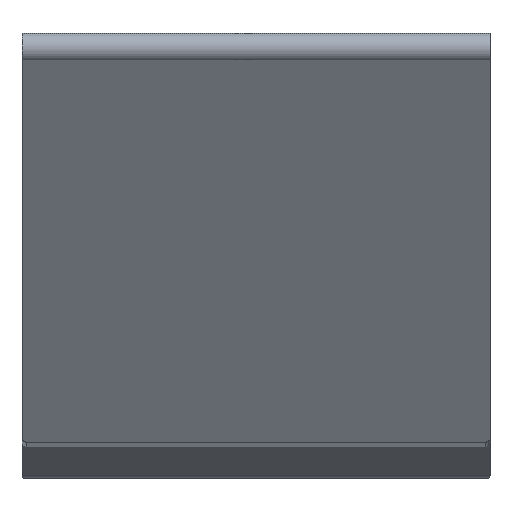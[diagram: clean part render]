
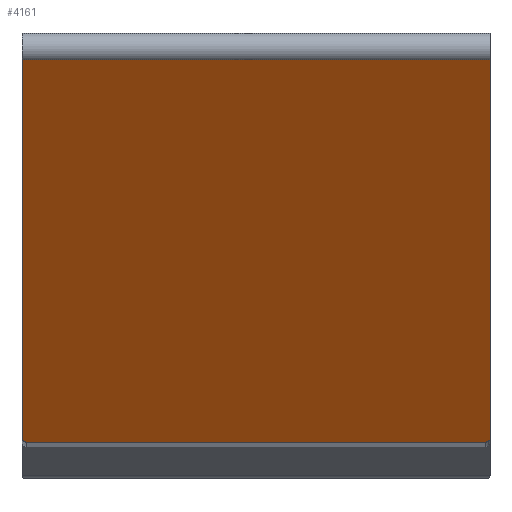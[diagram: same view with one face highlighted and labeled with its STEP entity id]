
A CAD part, front view. The second image highlights one B-rep face of the part: STEP entity #4161.
In plain terms, the highlighted planar face has unit normal (0, -0.267, -0.964).
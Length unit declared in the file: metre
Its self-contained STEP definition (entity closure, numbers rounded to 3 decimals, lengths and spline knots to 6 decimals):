
#169=B_SPLINE_CURVE_WITH_KNOTS('',3,(#6911,#6912,#6913,#6914),
 .UNSPECIFIED.,.F.,.F.,(4,4),(0.,0.000409),.UNSPECIFIED.);
#170=B_SPLINE_CURVE_WITH_KNOTS('',3,(#6916,#6917,#6918,#6919),
 .UNSPECIFIED.,.F.,.F.,(4,4),(0.,0.000409),.UNSPECIFIED.);
#747=ORIENTED_EDGE('',*,*,#1989,.T.);
#748=ORIENTED_EDGE('',*,*,#1990,.T.);
#749=ORIENTED_EDGE('',*,*,#1580,.T.);
#750=ORIENTED_EDGE('',*,*,#1991,.T.);
#751=ORIENTED_EDGE('',*,*,#1805,.F.);
#752=ORIENTED_EDGE('',*,*,#1992,.T.);
#1580=EDGE_CURVE('',#2216,#2215,#2628,.T.);
#1805=EDGE_CURVE('',#2440,#2441,#2813,.T.);
#1989=EDGE_CURVE('',#2598,#2599,#2932,.F.);
#1990=EDGE_CURVE('',#2599,#2216,#169,.F.);
#1991=EDGE_CURVE('',#2215,#2441,#2933,.T.);
#1992=EDGE_CURVE('',#2440,#2598,#170,.T.);
#2215=VERTEX_POINT('',#6018);
#2216=VERTEX_POINT('',#6020);
#2440=VERTEX_POINT('',#6471);
#2441=VERTEX_POINT('',#6473);
#2598=VERTEX_POINT('',#6909);
#2599=VERTEX_POINT('',#6910);
#2628=LINE('',#6019,#3081);
#2813=LINE('',#6472,#3266);
#2932=LINE('',#6908,#3385);
#2933=LINE('',#6915,#3386);
#3081=VECTOR('',#4783,1.);
#3266=VECTOR('',#5048,1.);
#3385=VECTOR('',#5305,1.);
#3386=VECTOR('',#5306,1.);
#3557=EDGE_LOOP('',(#747,#748,#749,#750,#751,#752));
#3802=FACE_BOUND('',#3557,.T.);
#4017=PLANE('',#4480);
#4161=ADVANCED_FACE('',(#3802),#4017,.T.);
#4480=AXIS2_PLACEMENT_3D('',#6907,#5303,#5304);
#4783=DIRECTION('',(0.,-0.964,0.267));
#5048=DIRECTION('',(0.,-0.964,0.267));
#5303=DIRECTION('',(0.,-0.267,-0.964));
#5304=DIRECTION('',(0.,0.964,-0.267));
#5305=DIRECTION('',(-1.,0.,0.));
#5306=DIRECTION('',(-1.,0.,0.));
#6018=CARTESIAN_POINT('',(0.0026,-0.124917,-0.001821));
#6019=CARTESIAN_POINT('',(0.0026,-0.09601,-0.009843));
#6020=CARTESIAN_POINT('',(0.0026,-0.067518,-0.017748));
#6471=CARTESIAN_POINT('',(-0.017,-0.067518,-0.017748));
#6472=CARTESIAN_POINT('',(-0.017,-0.09601,-0.009843));
#6473=CARTESIAN_POINT('',(-0.017,-0.124917,-0.001821));
#6907=CARTESIAN_POINT('',(0.0026,-0.09601,-0.009843));
#6908=CARTESIAN_POINT('',(0.0026,-0.067184,-0.017841));
#6909=CARTESIAN_POINT('',(-0.0168,-0.067184,-0.017841));
#6910=CARTESIAN_POINT('',(0.0024,-0.067184,-0.017841));
#6911=CARTESIAN_POINT('',(0.0026,-0.067518,-0.017748));
#6912=CARTESIAN_POINT('',(0.0026,-0.067384,-0.017786));
#6913=CARTESIAN_POINT('',(0.002497,-0.067277,-0.017815));
#6914=CARTESIAN_POINT('',(0.0024,-0.067184,-0.017841));
#6915=CARTESIAN_POINT('',(0.0026,-0.124917,-0.001821));
#6916=CARTESIAN_POINT('',(-0.017,-0.067518,-0.017748));
#6917=CARTESIAN_POINT('',(-0.017,-0.067384,-0.017786));
#6918=CARTESIAN_POINT('',(-0.016897,-0.067277,-0.017815));
#6919=CARTESIAN_POINT('',(-0.0168,-0.067184,-0.017841));
